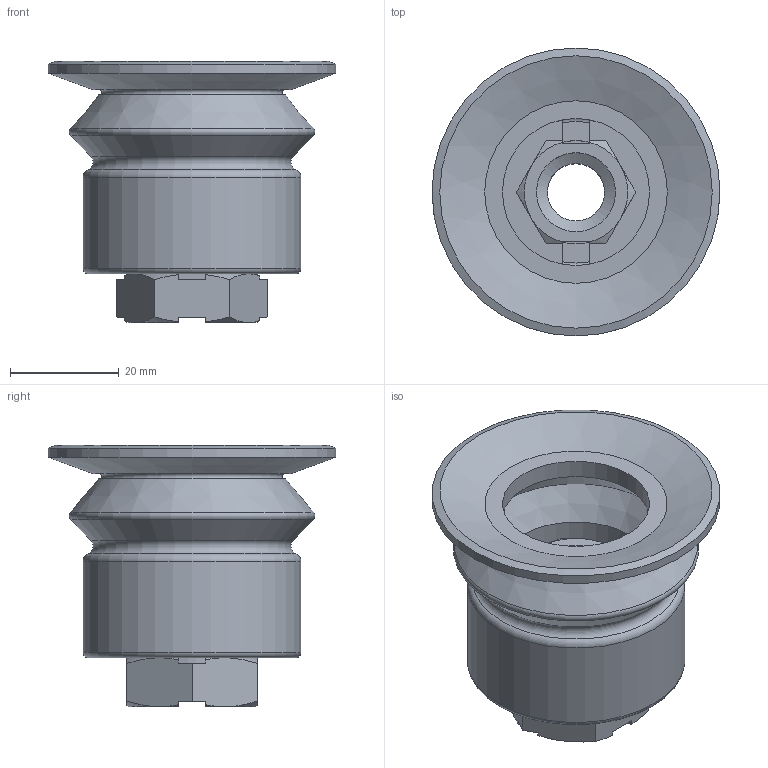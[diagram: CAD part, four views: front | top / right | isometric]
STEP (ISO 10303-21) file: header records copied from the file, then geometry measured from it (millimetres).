
FILE_DESCRIPTION(('STEP AP214'),'1');
FILE_NAME(').stp','2026-03-24T00:42:53',(' '),(' '),'Spatial InterOp 3D',' ',' ');
FILE_SCHEMA(('AUTOMOTIVE_DESIGN { 1 0 10303 214 1 1 1 1 }'));
Length unit declared in the file: millimetre
Products named in the file (5): LFK-M12-PKBG-50; PKBG-50-W; LFK-M12; NUT; FITTING
Assembly tree (4 placements, depth 3):
  LFK-M12-PKBG-50
    PKBG-50-W
    LFK-M12
      NUT
      FITTING
Bounding box: 52.86 x 52.86 x 48 mm (x, y, z)
Volume: 35542.9 mm3; surface area: 17681 mm2
Topology: 3 solids, 3 shells, 120 faces, 307 edges, 197 vertices
Faces by surface type: plane 58, cone 36, cylinder 20, torus 6
Full cylindrical faces by diameter (mm): 10.5 x2, 14.5 x1, 19 x1, 27 x1, 28 x1, 40 x1, 52.86 x1
Entity records: 4810 total; most frequent: CARTESIAN_POINT 862, ORIENTED_EDGE 564, DIRECTION 548, EDGE_CURVE 282, AXIS2_PLACEMENT_3D 208, VERTEX_POINT 194, EDGE_LOOP 152, STYLED_ITEM 145
